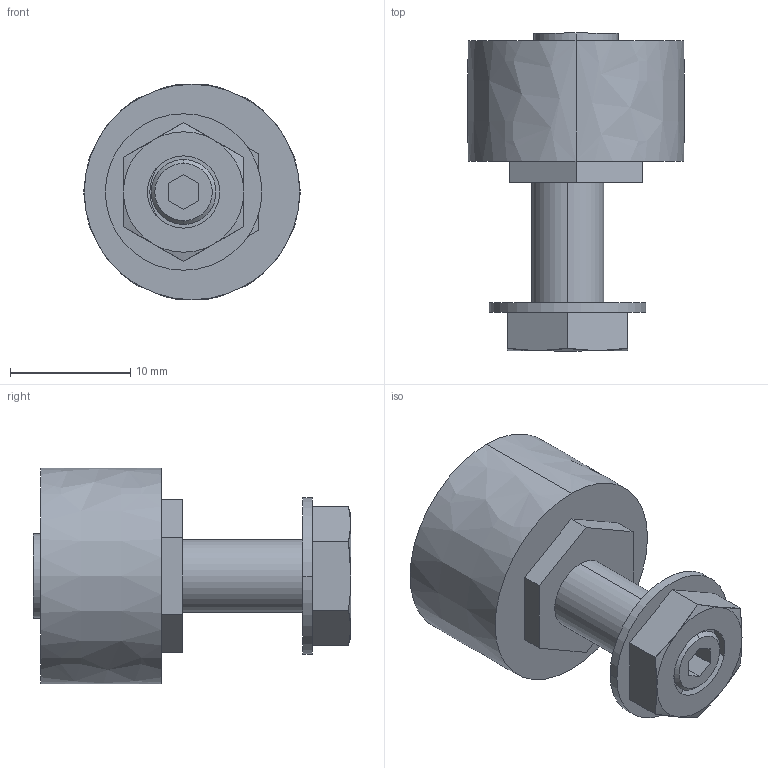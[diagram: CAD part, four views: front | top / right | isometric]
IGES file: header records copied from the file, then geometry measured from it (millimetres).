
Start section: 3D InterOp IGES (v. 2019 1.0.2), Spatial Corp. Copyright (c) 1999-2017.
Global section: file name: LR 18 ENS.igs; native system: Spatial Corp.; preprocessor: 3D InterOp GENERIC/IGES 3.0; author: Noname; organization: Noname; date: 20220628.172230; units: millimetre
Bounding box: 17.99 x 26.4 x 17.9 mm (x, y, z)
Surface area: 1717 mm2 (no closed solid volume)
Topology: 0 solids, 0 shells, 52 faces, 248 edges, 248 vertices
Faces by surface type: extrusion 34, revolution 16, bspline 2
